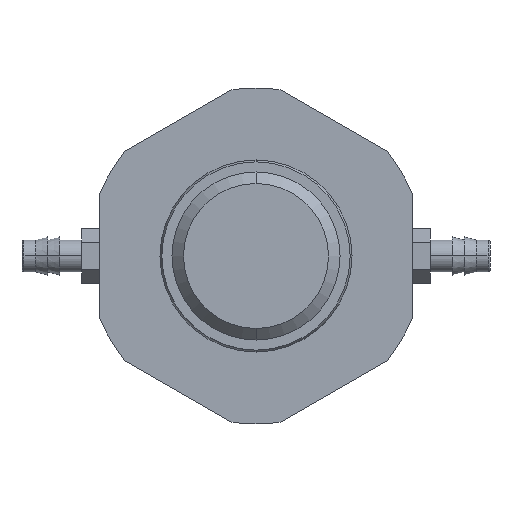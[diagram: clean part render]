
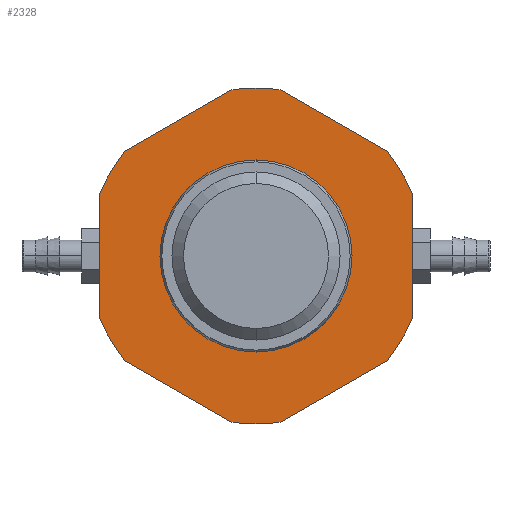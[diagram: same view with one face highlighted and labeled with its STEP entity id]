
A CAD part, left-side view. The second image highlights one B-rep face of the part: STEP entity #2328.
In plain terms, the highlighted planar face has unit normal (-1, 0, 0).
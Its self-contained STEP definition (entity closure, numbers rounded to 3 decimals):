
#2016=CARTESIAN_POINT('',(-3.375,0.,0.413));
#2017=VERTEX_POINT('',#2016);
#2033=CARTESIAN_POINT('',(-3.375,0.,-0.413));
#2034=VERTEX_POINT('',#2033);
#2041=CARTESIAN_POINT('',(-3.375,0.,0.0));
#2042=DIRECTION('',(1.0,0.0,0.0));
#2043=DIRECTION('',(0.0,0.0,1.0));
#2044=AXIS2_PLACEMENT_3D('',#2041,#2042,#2043);
#2045=CIRCLE('',#2044,0.413);
#2046=EDGE_CURVE('',#2034,#2017,#2045,.F.);
#2209=CARTESIAN_POINT('',(-3.375,0.,0.0));
#2210=DIRECTION('',(-1.0,0.0,0.0));
#2211=DIRECTION('',(0.0,0.0,1.0));
#2212=AXIS2_PLACEMENT_3D('',#2209,#2210,#2211);
#2213=PLANE('',#2212);
#2214=CARTESIAN_POINT('',(-3.375,-0.125,-0.866));
#2215=VERTEX_POINT('',#2214);
#2216=CARTESIAN_POINT('',(-3.375,0.125,-0.866));
#2217=VERTEX_POINT('',#2216);
#2218=CARTESIAN_POINT('',(-3.375,0.,0.0));
#2219=DIRECTION('',(1.0,0.0,0.0));
#2220=DIRECTION('',(0.0,0.0,-1.0));
#2221=AXIS2_PLACEMENT_3D('',#2218,#2219,#2220);
#2222=CIRCLE('',#2221,0.875);
#2223=EDGE_CURVE('',#2215,#2217,#2222,.T.);
#2224=ORIENTED_EDGE('',*,*,#2223,.F.);
#2225=CARTESIAN_POINT('',(-3.375,-0.687,-0.541));
#2226=VERTEX_POINT('',#2225);
#2227=CARTESIAN_POINT('',(-3.375,-0.687,-0.541));
#2228=DIRECTION('',(0.0,0.866,-0.5));
#2229=VECTOR('',#2228,0.65);
#2230=LINE('',#2227,#2229);
#2231=EDGE_CURVE('',#2226,#2215,#2230,.T.);
#2232=ORIENTED_EDGE('',*,*,#2231,.F.);
#2233=CARTESIAN_POINT('',(-3.375,-0.812,-0.325));
#2234=VERTEX_POINT('',#2233);
#2235=CARTESIAN_POINT('',(-3.375,0.,0.0));
#2236=DIRECTION('',(1.0,0.0,0.0));
#2237=DIRECTION('',(0.0,-0.866,-0.5));
#2238=AXIS2_PLACEMENT_3D('',#2235,#2236,#2237);
#2239=CIRCLE('',#2238,0.875);
#2240=EDGE_CURVE('',#2234,#2226,#2239,.T.);
#2241=ORIENTED_EDGE('',*,*,#2240,.F.);
#2242=CARTESIAN_POINT('',(-3.375,-0.812,0.325));
#2243=VERTEX_POINT('',#2242);
#2244=CARTESIAN_POINT('',(-3.375,-0.812,0.325));
#2245=DIRECTION('',(0.0,0.0,-1.0));
#2246=VECTOR('',#2245,0.65);
#2247=LINE('',#2244,#2246);
#2248=EDGE_CURVE('',#2243,#2234,#2247,.T.);
#2249=ORIENTED_EDGE('',*,*,#2248,.F.);
#2250=CARTESIAN_POINT('',(-3.375,-0.687,0.541));
#2251=VERTEX_POINT('',#2250);
#2252=CARTESIAN_POINT('',(-3.375,0.,0.0));
#2253=DIRECTION('',(1.0,0.0,0.0));
#2254=DIRECTION('',(0.0,-0.866,0.5));
#2255=AXIS2_PLACEMENT_3D('',#2252,#2253,#2254);
#2256=CIRCLE('',#2255,0.875);
#2257=EDGE_CURVE('',#2251,#2243,#2256,.T.);
#2258=ORIENTED_EDGE('',*,*,#2257,.F.);
#2259=CARTESIAN_POINT('',(-3.375,-0.125,0.866));
#2260=VERTEX_POINT('',#2259);
#2261=CARTESIAN_POINT('',(-3.375,-0.125,0.866));
#2262=DIRECTION('',(0.0,-0.866,-0.5));
#2263=VECTOR('',#2262,0.65);
#2264=LINE('',#2261,#2263);
#2265=EDGE_CURVE('',#2260,#2251,#2264,.T.);
#2266=ORIENTED_EDGE('',*,*,#2265,.F.);
#2267=CARTESIAN_POINT('',(-3.375,0.125,0.866));
#2268=VERTEX_POINT('',#2267);
#2269=CARTESIAN_POINT('',(-3.375,0.,0.0));
#2270=DIRECTION('',(1.0,0.0,0.0));
#2271=DIRECTION('',(0.0,0.0,1.0));
#2272=AXIS2_PLACEMENT_3D('',#2269,#2270,#2271);
#2273=CIRCLE('',#2272,0.875);
#2274=EDGE_CURVE('',#2268,#2260,#2273,.T.);
#2275=ORIENTED_EDGE('',*,*,#2274,.F.);
#2276=CARTESIAN_POINT('',(-3.375,0.688,0.541));
#2277=VERTEX_POINT('',#2276);
#2278=CARTESIAN_POINT('',(-3.375,0.688,0.541));
#2279=DIRECTION('',(0.0,-0.866,0.5));
#2280=VECTOR('',#2279,0.65);
#2281=LINE('',#2278,#2280);
#2282=EDGE_CURVE('',#2277,#2268,#2281,.T.);
#2283=ORIENTED_EDGE('',*,*,#2282,.F.);
#2284=CARTESIAN_POINT('',(-3.375,0.813,0.325));
#2285=VERTEX_POINT('',#2284);
#2286=CARTESIAN_POINT('',(-3.375,0.,0.0));
#2287=DIRECTION('',(1.0,0.0,0.0));
#2288=DIRECTION('',(0.0,0.866,0.5));
#2289=AXIS2_PLACEMENT_3D('',#2286,#2287,#2288);
#2290=CIRCLE('',#2289,0.875);
#2291=EDGE_CURVE('',#2285,#2277,#2290,.T.);
#2292=ORIENTED_EDGE('',*,*,#2291,.F.);
#2293=CARTESIAN_POINT('',(-3.375,0.813,-0.325));
#2294=VERTEX_POINT('',#2293);
#2295=CARTESIAN_POINT('',(-3.375,0.813,-0.325));
#2296=DIRECTION('',(0.0,0.0,1.0));
#2297=VECTOR('',#2296,0.65);
#2298=LINE('',#2295,#2297);
#2299=EDGE_CURVE('',#2294,#2285,#2298,.T.);
#2300=ORIENTED_EDGE('',*,*,#2299,.F.);
#2301=CARTESIAN_POINT('',(-3.375,0.688,-0.541));
#2302=VERTEX_POINT('',#2301);
#2303=CARTESIAN_POINT('',(-3.375,0.0,0.0));
#2304=DIRECTION('',(1.0,0.0,0.0));
#2305=DIRECTION('',(0.0,0.866,-0.5));
#2306=AXIS2_PLACEMENT_3D('',#2303,#2304,#2305);
#2307=CIRCLE('',#2306,0.875);
#2308=EDGE_CURVE('',#2302,#2294,#2307,.T.);
#2309=ORIENTED_EDGE('',*,*,#2308,.F.);
#2310=CARTESIAN_POINT('',(-3.375,0.125,-0.866));
#2311=DIRECTION('',(0.0,0.866,0.5));
#2312=VECTOR('',#2311,0.65);
#2313=LINE('',#2310,#2312);
#2314=EDGE_CURVE('',#2217,#2302,#2313,.T.);
#2315=ORIENTED_EDGE('',*,*,#2314,.F.);
#2316=EDGE_LOOP('',(#2224,#2232,#2241,#2249,#2258,#2266,#2275,#2283,#2292,#2300,#2309,#2315));
#2317=FACE_OUTER_BOUND('',#2316,.T.);
#2318=CARTESIAN_POINT('',(-3.375,0.,0.0));
#2319=DIRECTION('',(1.0,0.0,0.0));
#2320=DIRECTION('',(0.0,0.0,1.0));
#2321=AXIS2_PLACEMENT_3D('',#2318,#2319,#2320);
#2322=CIRCLE('',#2321,0.413);
#2323=EDGE_CURVE('',#2017,#2034,#2322,.F.);
#2324=ORIENTED_EDGE('',*,*,#2323,.F.);
#2325=ORIENTED_EDGE('',*,*,#2046,.F.);
#2326=EDGE_LOOP('',(#2324,#2325));
#2327=FACE_BOUND('',#2326,.T.);
#2328=ADVANCED_FACE('',(#2317,#2327),#2213,.T.);
